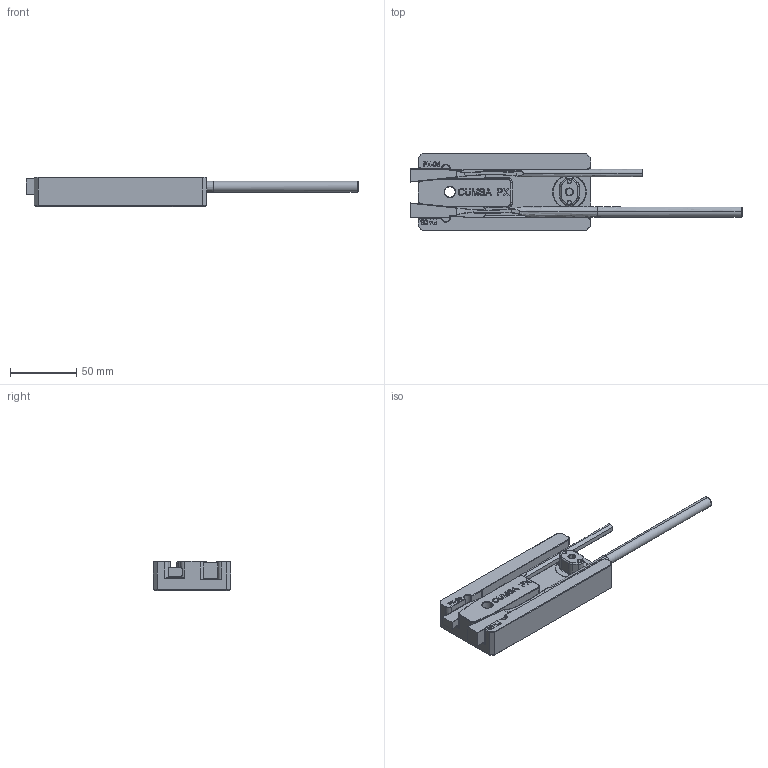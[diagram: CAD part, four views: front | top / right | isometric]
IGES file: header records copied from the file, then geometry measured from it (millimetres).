
Start section: START RECORD GO HERE.
Global section: file name: cx013058.igs; native system: DASSAULT SYSTEMES CATIA V5 R20 - www.3ds.com; preprocessor: CATIA Version 5 Release 20 ; author: Utente; organization: NB04-ASUS; date: 20201103.205141; units: millimetre
Bounding box: 250.04 x 58 x 22 mm (x, y, z)
Surface area: 42322.7 mm2 (no closed solid volume)
Topology: 0 solids, 0 shells, 640 faces, 3192 edges, 3162 vertices
Faces by surface type: plane 266, revolution 255, bspline 119
